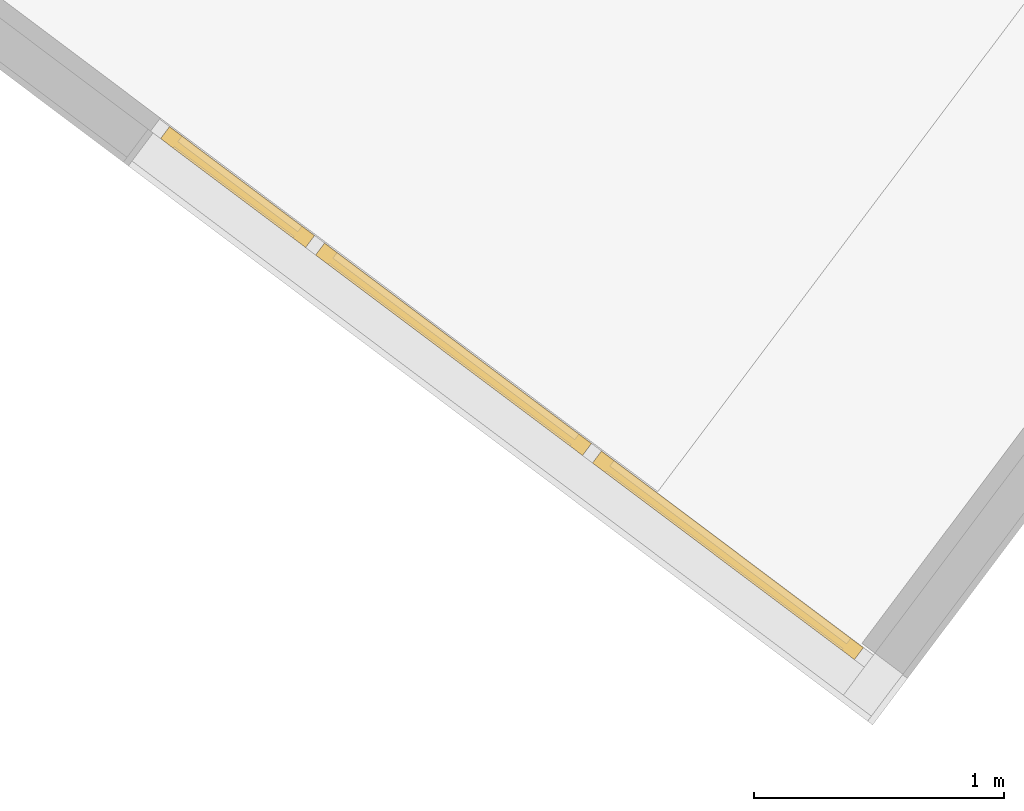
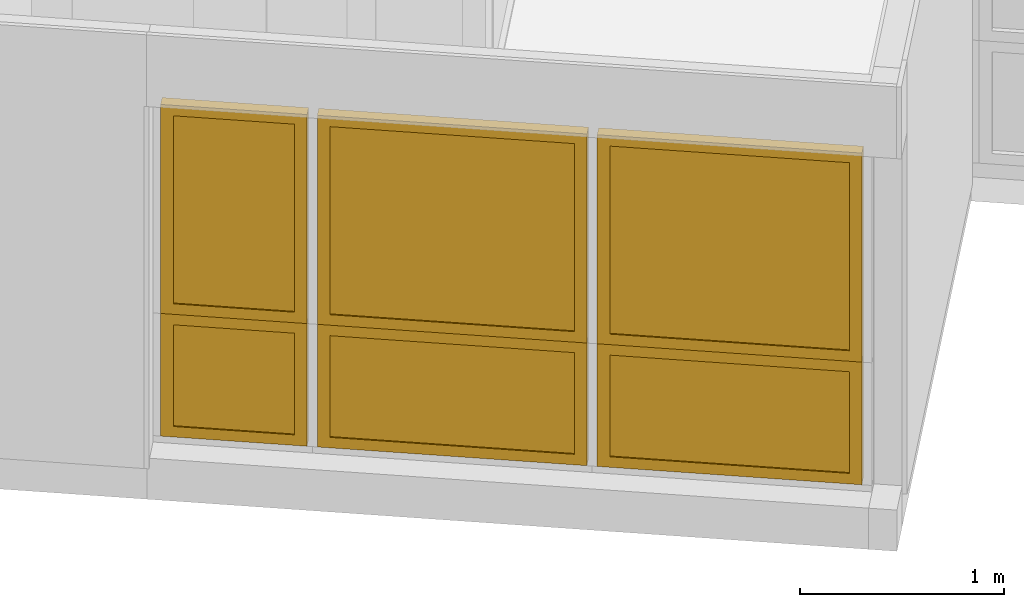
# One storey, part 221 of 243: 6 windows, 1 element without a shape of its own.
"""IFC2X3 building model written with IfcOpenShell, lengths in metres."""

from ifc_helpers import new_model, entity, si_unit, converted_unit, derived_unit, direction, frame, origin, place, context, subcontext, project, spatial, faceted_brep, source, transform, mapped, material, material_list, type_object, type_shapes, element, aggregate, save


model = new_model("IFC2X3")

# Units and contexts
model_context = context("Model", 3, precision=1e-05, world=origin(), true_north=direction((6.123031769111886e-17, 1.0)))
body_context = subcontext(model_context, "Body", "Model", "MODEL_VIEW")
ifc_project = project(units=[si_unit("LENGTHUNIT", "METRE"), si_unit("AREAUNIT", "SQUARE_METRE"), si_unit("VOLUMEUNIT", "CUBIC_METRE"), converted_unit("PLANEANGLEUNIT", "DEGREE", entity("IfcRatioMeasure", 0.017453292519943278), si_unit("PLANEANGLEUNIT", "RADIAN"), dimensions=[0, 0, 0, 0, 0, 0, 0]), si_unit("MASSUNIT", "GRAM", prefix="KILO"), derived_unit("MASSDENSITYUNIT", [(si_unit("MASSUNIT", "GRAM", prefix="KILO"), 1), (si_unit("LENGTHUNIT", "METRE"), -3)]), derived_unit("IONCONCENTRATIONUNIT", [(si_unit("MASSUNIT", "GRAM", prefix="KILO"), 1), (si_unit("LENGTHUNIT", "METRE"), -3)]), derived_unit("MOMENTOFINERTIAUNIT", [(si_unit("LENGTHUNIT", "METRE"), 4)]), si_unit("TIMEUNIT", "SECOND"), si_unit("FREQUENCYUNIT", "HERTZ"), si_unit("THERMODYNAMICTEMPERATUREUNIT", "DEGREE_CELSIUS"), derived_unit("THERMALTRANSMITTANCEUNIT", [(si_unit("MASSUNIT", "GRAM", prefix="KILO"), 1), (si_unit("THERMODYNAMICTEMPERATUREUNIT", "KELVIN"), -1), (si_unit("TIMEUNIT", "SECOND"), -3)]), derived_unit("THERMALCONDUCTANCEUNIT", [(si_unit("MASSUNIT", "GRAM", prefix="KILO"), 1), (si_unit("THERMODYNAMICTEMPERATUREUNIT", "KELVIN"), -1), (si_unit("TIMEUNIT", "SECOND"), -3), (si_unit("LENGTHUNIT", "METRE"), 1)]), derived_unit("VOLUMETRICFLOWRATEUNIT", [(si_unit("LENGTHUNIT", "METRE"), 3), (si_unit("TIMEUNIT", "SECOND"), -1)]), derived_unit("MASSFLOWRATEUNIT", [(si_unit("MASSUNIT", "GRAM", prefix="KILO"), 1), (si_unit("TIMEUNIT", "SECOND"), -1)]), derived_unit("ROTATIONALFREQUENCYUNIT", [(si_unit("TIMEUNIT", "SECOND"), -1)]), si_unit("ELECTRICCURRENTUNIT", "AMPERE"), si_unit("ELECTRICVOLTAGEUNIT", "VOLT"), si_unit("POWERUNIT", "WATT"), si_unit("FORCEUNIT", "NEWTON", prefix="KILO"), si_unit("ILLUMINANCEUNIT", "LUX"), si_unit("LUMINOUSFLUXUNIT", "LUMEN"), si_unit("LUMINOUSINTENSITYUNIT", "CANDELA"), derived_unit("USERDEFINED", [(si_unit("MASSUNIT", "GRAM", prefix="KILO"), -1), (si_unit("LENGTHUNIT", "METRE"), -2), (si_unit("TIMEUNIT", "SECOND"), 3), (si_unit("LUMINOUSFLUXUNIT", "LUMEN"), 1)]), derived_unit("USERDEFINED", [(si_unit("MASSUNIT", "GRAM", prefix="KILO"), 1), (si_unit("TIMEUNIT", "SECOND"), -3), (si_unit("LENGTHUNIT", "METRE"), 3), (si_unit("ELECTRICCURRENTUNIT", "AMPERE"), -2)]), derived_unit("SOUNDPOWERUNIT", [(si_unit("MASSUNIT", "GRAM", prefix="KILO"), 1), (si_unit("TIMEUNIT", "SECOND"), -3), (si_unit("LENGTHUNIT", "METRE"), 2)]), derived_unit("SOUNDPRESSUREUNIT", [(si_unit("MASSUNIT", "GRAM", prefix="KILO"), 1), (si_unit("LENGTHUNIT", "METRE"), -1), (si_unit("TIMEUNIT", "SECOND"), -2)]), derived_unit("LINEARVELOCITYUNIT", [(si_unit("LENGTHUNIT", "METRE"), 1), (si_unit("TIMEUNIT", "SECOND"), -1)]), si_unit("PRESSUREUNIT", "PASCAL"), derived_unit("USERDEFINED", [(si_unit("MASSUNIT", "GRAM", prefix="KILO"), 1), (si_unit("LENGTHUNIT", "METRE"), -2), (si_unit("TIMEUNIT", "SECOND"), -2)]), derived_unit("LINEARFORCEUNIT", [(si_unit("MASSUNIT", "GRAM", prefix="KILO"), 1), (si_unit("TIMEUNIT", "SECOND"), -2)]), derived_unit("PLANARFORCEUNIT", [(si_unit("MASSUNIT", "GRAM", prefix="KILO"), 1), (si_unit("LENGTHUNIT", "METRE"), -1), (si_unit("TIMEUNIT", "SECOND"), -2)]), derived_unit("SPECIFICHEATCAPACITYUNIT", [(si_unit("THERMODYNAMICTEMPERATUREUNIT", "KELVIN"), -1), (si_unit("LENGTHUNIT", "METRE"), 2), (si_unit("TIMEUNIT", "SECOND"), -2)]), derived_unit("HEATINGVALUEUNIT", [(si_unit("LENGTHUNIT", "METRE"), 2), (si_unit("TIMEUNIT", "SECOND"), -2)]), derived_unit("VAPORPERMEABILITYUNIT", [(si_unit("LENGTHUNIT", "METRE"), -1), (si_unit("TIMEUNIT", "SECOND"), 1)]), derived_unit("DYNAMICVISCOSITYUNIT", [(si_unit("MASSUNIT", "GRAM", prefix="KILO"), 1), (si_unit("TIMEUNIT", "SECOND"), -1), (si_unit("LENGTHUNIT", "METRE"), -1)]), derived_unit("THERMALEXPANSIONCOEFFICIENTUNIT", [(si_unit("THERMODYNAMICTEMPERATUREUNIT", "KELVIN"), -1)]), derived_unit("MODULUSOFELASTICITYUNIT", [(si_unit("MASSUNIT", "GRAM", prefix="KILO"), 1), (si_unit("LENGTHUNIT", "METRE"), -1), (si_unit("TIMEUNIT", "SECOND"), -2)]), derived_unit("ISOTHERMALMOISTURECAPACITYUNIT", [(si_unit("LENGTHUNIT", "METRE"), 3), (si_unit("MASSUNIT", "GRAM", prefix="KILO"), -1)]), derived_unit("MOISTUREDIFFUSIVITYUNIT", [(si_unit("TIMEUNIT", "SECOND"), -1), (si_unit("LENGTHUNIT", "METRE"), 2)])], contexts=[model_context])

# Site, building, storey
site_placement = place(None, frame((0.0, 0.0, 235.0), z_axis=(0.0, 0.0, 1.0), x_axis=(-0.7996477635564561, 0.6004693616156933, 0.0)))
site = spatial("IfcSite", under=ifc_project, at=site_placement, Name="Default", CompositionType="ELEMENT")
building_placement = place(site_placement, origin())
building = spatial("IfcBuilding", under=site, at=building_placement, CompositionType="ELEMENT")
storey_placement = place(building_placement, origin())
storey = spatial("IfcBuildingStorey", under=building, at=storey_placement, Name="P0- Escola", CompositionType="ELEMENT", Elevation=0.0)

# Curtain wall, windows
curtain_wall_type = type_object("IfcCurtainWallType", Name="Muro cortina:MC- EXT- AL3", PredefinedType="NOTDEFINED")
curtain_wall_placement = place(storey_placement, origin())
curtain_wall = element("IfcCurtainWall", 1, at=curtain_wall_placement, inside=storey, type_object=curtain_wall_type, Name="Muro cortina:MC- EXT- AL3", ObjectType="Muro cortina:MC- EXT- AL3")
ifc_material_1 = material(Name="_Vidre")
ifc_material_2 = material(Name="_Alumini- T1- Perfil")
ifc_material_list = material_list([ifc_material_1, ifc_material_2])
window_style_1 = type_object("IfcWindowStyle", Name="MC- Alu- Conjunt vidre fix- 62x60 cm:MC- Alu- Conjunt vidre fix- 62x60 cm", ConstructionType="NOTDEFINED", OperationType="NOTDEFINED", ParameterTakesPrecedence=False, Sizeable=False, material=ifc_material_list)
shared_shape_1 = source(origin(), body_context, "Body", "Brep", [
    faceted_brep([(-0.6056932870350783, -0.007600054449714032, 0.048806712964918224), (0.6056932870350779, -0.007600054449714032, 0.048806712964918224), (0.6056932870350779, -0.03160022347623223, 0.048806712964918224), (-0.6056932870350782, -0.03160022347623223, 0.048806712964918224), (-0.6056932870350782, -0.007600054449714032, 0.685999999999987), (0.6056932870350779, -0.007600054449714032, 0.685999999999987), (0.6056932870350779, -0.03160022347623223, 0.685999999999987), (-0.6056932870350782, -0.03160022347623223, 0.685999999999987)], [[[0, 1, 2, 3]], [[4, 5, 1, 0]], [[5, 6, 2, 1]], [[6, 7, 3, 2]], [[7, 4, 0, 3]], [[4, 7, 6, 5]]]),
    faceted_brep([(-0.6544999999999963, -0.05999999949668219, 0.734999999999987), (-0.6544999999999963, 0.0, 0.734999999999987), (-0.6544999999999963, 0.0, 0.0), (-0.6544999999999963, -0.05999999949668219, 0.0), (-0.5916931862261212, 0.0, 0.6721931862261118), (-0.5916931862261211, 0.0, 0.06280681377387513), (0.5916931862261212, 0.0, 0.06280681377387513), (0.5916931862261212, 0.0, 0.6721931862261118), (0.6544999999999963, 0.0, 0.734999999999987), (0.6544999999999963, 0.0, 0.0), (0.6544999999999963, -0.05999999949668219, 0.0), (0.6544999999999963, -0.05999999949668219, 0.734999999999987), (0.5916960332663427, -0.05999999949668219, 0.6721960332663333), (0.5916960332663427, -0.05999999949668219, 0.06280396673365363), (-0.5916960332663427, -0.05999999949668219, 0.0628039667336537), (-0.5916960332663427, -0.05999999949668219, 0.6721960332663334), (-0.5916960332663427, -0.03160022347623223, 0.6721960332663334), (-0.5916960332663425, -0.03160022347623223, 0.06280396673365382), (0.5916960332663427, -0.03160022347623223, 0.06280396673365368), (0.5916960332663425, -0.03160022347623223, 0.6721960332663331), (0.6056932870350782, -0.03160022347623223, 0.6861932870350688), (0.6056932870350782, -0.03160022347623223, 0.048806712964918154), (-0.6056932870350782, -0.03160022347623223, 0.04880671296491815), (-0.6056932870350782, -0.03160022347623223, 0.6861932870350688), (-0.6056932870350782, -0.007600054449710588, 0.6861932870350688), (-0.6056932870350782, -0.007600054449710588, 0.04880671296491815), (0.6056932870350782, -0.007600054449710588, 0.048806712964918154), (0.6056932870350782, -0.007600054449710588, 0.6861932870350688), (0.5916931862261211, -0.007600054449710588, 0.6721931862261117), (0.5916931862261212, -0.007600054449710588, 0.06280681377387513), (-0.5916931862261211, -0.007600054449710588, 0.06280681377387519), (-0.5916931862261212, -0.007600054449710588, 0.6721931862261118)], [[[0, 1, 2, 3]], [[4, 5, 6, 7], [8, 9, 2, 1]], [[3, 2, 9, 10]], [[0, 3, 10, 11], [12, 13, 14, 15]], [[16, 15, 14, 17]], [[17, 14, 13, 18]], [[16, 17, 18, 19], [20, 21, 22, 23]], [[24, 23, 22, 25]], [[25, 22, 21, 26]], [[24, 25, 26, 27], [28, 29, 30, 31]], [[4, 31, 30, 5]], [[5, 30, 29, 6]], [[10, 9, 8, 11]], [[18, 13, 12, 19]], [[26, 21, 20, 27]], [[6, 29, 28, 7]], [[11, 8, 1, 0]], [[19, 12, 15, 16]], [[27, 20, 23, 24]], [[7, 28, 31, 4]]], outer=[[True], [False, True], [True], [True, False], [True], [True], [False, True], [True], [True], [True, False], [True], [True], [True], [True], [True], [True], [True], [True], [True], [True]]),
])
type_shapes(window_style_1, [shared_shape_1])
window_1_placement = place(curtain_wall_placement, frame((14.089647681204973, -15.460191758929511, 0.085)))
window_1 = element("IfcWindow", 2, at=window_1_placement, type_object=window_style_1, material=ifc_material_list, Name="MC- Alu- Conjunt vidre fix- 62x60 cm:MC- Alu- Conjunt vidre fix- 62x60 cm", ObjectType="MC- Alu- Conjunt vidre fix- 62x60 cm:MC- Alu- Conjunt vidre fix- 62x60 cm", OverallHeight=0.734999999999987, OverallWidth=1.3089999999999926, context=body_context, shape_type="MappedRepresentation", body=[
    mapped(shared_shape_1, transform((0.0, 0.0, 0.0), scale=1.0)),
])
window_style_2 = type_object("IfcWindowStyle", Name="MC- Alu- Conjunt vidre fix- 62x60 cm:MC- Alu- Conjunt vidre fix- 62x60 cm", ConstructionType="NOTDEFINED", OperationType="NOTDEFINED", ParameterTakesPrecedence=False, Sizeable=False, material=ifc_material_list)
shared_shape_2 = source(origin(), body_context, "Body", "Brep", [
    faceted_brep([(-0.6181932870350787, -0.007600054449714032, 0.048806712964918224), (0.6181932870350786, -0.007600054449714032, 0.048806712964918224), (0.6181932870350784, -0.03160022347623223, 0.048806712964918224), (-0.6181932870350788, -0.03160022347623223, 0.048806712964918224), (-0.6181932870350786, -0.007600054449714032, 0.685999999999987), (0.6181932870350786, -0.007600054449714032, 0.685999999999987), (0.6181932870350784, -0.03160022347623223, 0.685999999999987), (-0.6181932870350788, -0.03160022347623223, 0.685999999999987)], [[[0, 1, 2, 3]], [[4, 5, 1, 0]], [[5, 6, 2, 1]], [[6, 7, 3, 2]], [[7, 4, 0, 3]], [[4, 7, 6, 5]]]),
    faceted_brep([(-0.6669999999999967, -0.05999999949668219, 0.734999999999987), (-0.6669999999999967, 0.0, 0.734999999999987), (-0.6669999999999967, 0.0, 0.0), (-0.6669999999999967, -0.05999999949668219, 0.0), (-0.6041931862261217, 0.0, 0.6721931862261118), (-0.6041931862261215, 0.0, 0.06280681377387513), (0.6041931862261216, 0.0, 0.06280681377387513), (0.6041931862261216, 0.0, 0.6721931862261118), (0.6669999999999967, 0.0, 0.734999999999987), (0.6669999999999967, 0.0, 0.0), (0.6669999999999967, -0.05999999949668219, 0.0), (0.6669999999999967, -0.05999999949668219, 0.734999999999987), (0.6041960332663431, -0.05999999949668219, 0.6721960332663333), (0.6041960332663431, -0.05999999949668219, 0.06280396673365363), (-0.6041960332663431, -0.05999999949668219, 0.0628039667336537), (-0.6041960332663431, -0.05999999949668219, 0.6721960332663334), (-0.6041960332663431, -0.03160022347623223, 0.6721960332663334), (-0.6041960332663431, -0.03160022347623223, 0.0628039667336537), (0.6041960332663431, -0.03160022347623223, 0.06280396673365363), (0.6041960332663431, -0.03160022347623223, 0.6721960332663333), (0.6181932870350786, -0.03160022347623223, 0.6861932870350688), (0.6181932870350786, -0.03160022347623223, 0.048806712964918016), (-0.6181932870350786, -0.03160022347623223, 0.04880671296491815), (-0.6181932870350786, -0.03160022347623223, 0.686193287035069), (-0.6181932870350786, -0.007600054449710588, 0.686193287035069), (-0.6181932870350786, -0.007600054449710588, 0.04880671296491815), (0.6181932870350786, -0.007600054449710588, 0.04880671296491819), (0.6181932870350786, -0.007600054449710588, 0.6861932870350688), (0.6041931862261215, -0.007600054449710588, 0.6721931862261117), (0.6041931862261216, -0.007600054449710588, 0.06280681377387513), (-0.6041931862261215, -0.007600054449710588, 0.06280681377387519), (-0.6041931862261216, -0.007600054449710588, 0.6721931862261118)], [[[0, 1, 2, 3]], [[4, 5, 6, 7], [8, 9, 2, 1]], [[3, 2, 9, 10]], [[0, 3, 10, 11], [12, 13, 14, 15]], [[16, 15, 14, 17]], [[17, 14, 13, 18]], [[16, 17, 18, 19], [20, 21, 22, 23]], [[24, 23, 22, 25]], [[25, 22, 21, 26]], [[24, 25, 26, 27], [28, 29, 30, 31]], [[4, 31, 30, 5]], [[5, 30, 29, 6]], [[10, 9, 8, 11]], [[18, 13, 12, 19]], [[26, 21, 20, 27]], [[6, 29, 28, 7]], [[11, 8, 1, 0]], [[19, 12, 15, 16]], [[27, 20, 23, 24]], [[7, 28, 31, 4]]], outer=[[True], [False, True], [True], [True, False], [True], [True], [False, True], [True], [True], [True, False], [True], [True], [True], [True], [True], [True], [True], [True], [True], [True]]),
])
type_shapes(window_style_2, [shared_shape_2])
window_2_placement = place(curtain_wall_placement, frame((15.461147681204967, -15.460191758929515, 0.085)))
window_2 = element("IfcWindow", 3, at=window_2_placement, type_object=window_style_2, material=ifc_material_list, Name="MC- Alu- Conjunt vidre fix- 62x60 cm:MC- Alu- Conjunt vidre fix- 62x60 cm", ObjectType="MC- Alu- Conjunt vidre fix- 62x60 cm:MC- Alu- Conjunt vidre fix- 62x60 cm", OverallHeight=0.734999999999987, OverallWidth=1.3339999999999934, context=body_context, shape_type="MappedRepresentation", body=[
    mapped(shared_shape_2, transform((0.0, 0.0, 0.0), scale=1.0)),
])
window_style_3 = type_object("IfcWindowStyle", Name="MC- Alu- Conjunt vidre fix- 62x60 cm:MC- Alu- Conjunt vidre fix- 62x60 cm", ConstructionType="NOTDEFINED", OperationType="NOTDEFINED", ParameterTakesPrecedence=False, Sizeable=False, material=ifc_material_list)
shared_shape_3 = source(origin(), body_context, "Body", "Brep", [
    faceted_brep([(-0.3136932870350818, -0.007600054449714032, 0.048806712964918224), (0.31369328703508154, -0.007600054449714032, 0.048806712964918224), (0.31369328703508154, -0.03160022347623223, 0.048806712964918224), (-0.3136932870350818, -0.03160022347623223, 0.048806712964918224), (-0.3136932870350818, -0.007600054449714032, 0.6859999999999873), (0.31369328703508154, -0.007600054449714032, 0.6859999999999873), (0.31369328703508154, -0.03160022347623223, 0.6859999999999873), (-0.3136932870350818, -0.03160022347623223, 0.6859999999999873)], [[[0, 1, 2, 3]], [[4, 5, 1, 0]], [[5, 6, 2, 1]], [[6, 7, 3, 2]], [[7, 4, 0, 3]], [[4, 7, 6, 5]]]),
    faceted_brep([(-0.3624999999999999, -0.05999999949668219, 0.7349999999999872), (-0.3624999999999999, 0.0, 0.7349999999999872), (-0.3624999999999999, 0.0, 0.0), (-0.3624999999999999, -0.05999999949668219, 0.0), (-0.2996931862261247, 0.0, 0.6721931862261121), (-0.2996931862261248, 0.0, 0.06280681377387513), (0.2996931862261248, 0.0, 0.06280681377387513), (0.2996931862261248, 0.0, 0.6721931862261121), (0.3624999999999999, 0.0, 0.7349999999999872), (0.3624999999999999, 0.0, 0.0), (0.3624999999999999, -0.05999999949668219, 0.0), (0.3624999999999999, -0.05999999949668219, 0.7349999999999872), (0.2996960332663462, -0.05999999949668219, 0.6721960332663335), (0.2996960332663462, -0.05999999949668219, 0.0628039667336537), (-0.2996960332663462, -0.05999999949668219, 0.0628039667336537), (-0.2996960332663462, -0.05999999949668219, 0.6721960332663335), (-0.2996960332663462, -0.03160022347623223, 0.6721960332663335), (-0.29969603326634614, -0.03160022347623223, 0.06280396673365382), (0.29969603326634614, -0.03160022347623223, 0.0628039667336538), (0.2996960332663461, -0.03160022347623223, 0.6721960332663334), (0.31369328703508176, -0.03160022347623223, 0.6861932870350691), (0.31369328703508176, -0.03160022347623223, 0.048806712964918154), (-0.31369328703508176, -0.03160022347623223, 0.04880671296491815), (-0.31369328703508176, -0.03160022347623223, 0.6861932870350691), (-0.31369328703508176, -0.007600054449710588, 0.6861932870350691), (-0.31369328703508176, -0.007600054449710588, 0.04880671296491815), (0.31369328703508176, -0.007600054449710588, 0.048806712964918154), (0.31369328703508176, -0.007600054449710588, 0.6861932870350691), (0.2996931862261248, -0.007600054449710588, 0.6721931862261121), (0.2996931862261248, -0.007600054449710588, 0.06280681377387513), (-0.2996931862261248, -0.007600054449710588, 0.06280681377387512), (-0.2996931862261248, -0.007600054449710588, 0.6721931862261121)], [[[0, 1, 2, 3]], [[4, 5, 6, 7], [8, 9, 2, 1]], [[3, 2, 9, 10]], [[0, 3, 10, 11], [12, 13, 14, 15]], [[16, 15, 14, 17]], [[17, 14, 13, 18]], [[16, 17, 18, 19], [20, 21, 22, 23]], [[24, 23, 22, 25]], [[25, 22, 21, 26]], [[24, 25, 26, 27], [28, 29, 30, 31]], [[4, 31, 30, 5]], [[5, 30, 29, 6]], [[10, 9, 8, 11]], [[18, 13, 12, 19]], [[26, 21, 20, 27]], [[6, 29, 28, 7]], [[11, 8, 1, 0]], [[19, 12, 15, 16]], [[27, 20, 23, 24]], [[7, 28, 31, 4]]], outer=[[True], [False, True], [True], [True, False], [True], [True], [False, True], [True], [True], [True, False], [True], [True], [True], [True], [True], [True], [True], [True], [True], [True]]),
])
type_shapes(window_style_3, [shared_shape_3])
window_3_placement = place(curtain_wall_placement, frame((16.540647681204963, -15.46019175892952, 0.085)))
window_3 = element("IfcWindow", 4, at=window_3_placement, type_object=window_style_3, material=ifc_material_list, Name="MC- Alu- Conjunt vidre fix- 62x60 cm:MC- Alu- Conjunt vidre fix- 62x60 cm", ObjectType="MC- Alu- Conjunt vidre fix- 62x60 cm:MC- Alu- Conjunt vidre fix- 62x60 cm", OverallHeight=0.7349999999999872, OverallWidth=0.7249999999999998, context=body_context, shape_type="MappedRepresentation", body=[
    mapped(shared_shape_3, transform((0.0, 0.0, 0.0), scale=1.0)),
])
window_style_4 = type_object("IfcWindowStyle", Name="MC- Alu- Conjunt vidre fix- 62x60 cm:MC- Alu- Conjunt vidre fix- 62x60 cm", ConstructionType="NOTDEFINED", OperationType="NOTDEFINED", ParameterTakesPrecedence=False, Sizeable=False, material=ifc_material_list)
shared_shape_4 = source(origin(), body_context, "Body", "Brep", [
    faceted_brep([(-0.6056932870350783, -0.007600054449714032, 0.048806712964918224), (0.6056932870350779, -0.007600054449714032, 0.048806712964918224), (0.6056932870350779, -0.03160022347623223, 0.048806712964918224), (-0.6056932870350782, -0.03160022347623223, 0.048806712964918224), (-0.6056932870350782, -0.007600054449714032, 1.2035000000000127), (0.6056932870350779, -0.007600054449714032, 1.2035000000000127), (0.6056932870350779, -0.03160022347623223, 1.2035000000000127), (-0.6056932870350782, -0.03160022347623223, 1.2035000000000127)], [[[0, 1, 2, 3]], [[4, 5, 1, 0]], [[5, 6, 2, 1]], [[6, 7, 3, 2]], [[7, 4, 0, 3]], [[4, 7, 6, 5]]]),
    faceted_brep([(-0.6544999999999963, -0.05999999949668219, 1.2525000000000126), (-0.6544999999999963, 0.0, 1.2525000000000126), (-0.6544999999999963, 0.0, 0.0), (-0.6544999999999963, -0.05999999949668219, 0.0), (-0.5916931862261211, 0.0, 1.1896931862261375), (-0.5916931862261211, 0.0, 0.06280681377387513), (0.5916931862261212, 0.0, 0.06280681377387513), (0.5916931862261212, 0.0, 1.1896931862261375), (0.6544999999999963, 0.0, 1.2525000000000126), (0.6544999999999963, 0.0, 0.0), (0.6544999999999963, -0.05999999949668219, 0.0), (0.6544999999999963, -0.05999999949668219, 1.2525000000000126), (0.5916960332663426, -0.05999999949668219, 1.1896960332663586), (0.5916960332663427, -0.05999999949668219, 0.06280396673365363), (-0.5916960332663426, -0.05999999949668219, 0.06280396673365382), (-0.5916960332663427, -0.05999999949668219, 1.1896960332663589), (-0.5916960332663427, -0.03160022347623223, 1.1896960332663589), (-0.5916960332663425, -0.03160022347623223, 0.06280396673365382), (0.5916960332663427, -0.03160022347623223, 0.06280396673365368), (0.5916960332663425, -0.03160022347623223, 1.1896960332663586), (0.6056932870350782, -0.03160022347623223, 1.2036932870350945), (0.6056932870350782, -0.03160022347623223, 0.048806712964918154), (-0.6056932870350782, -0.03160022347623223, 0.04880671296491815), (-0.6056932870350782, -0.03160022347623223, 1.2036932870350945), (-0.6056932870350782, -0.007600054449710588, 1.2036932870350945), (-0.6056932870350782, -0.007600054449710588, 0.04880671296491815), (0.6056932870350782, -0.007600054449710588, 0.048806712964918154), (0.6056932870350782, -0.007600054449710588, 1.2036932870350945), (0.5916931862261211, -0.007600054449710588, 1.1896931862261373), (0.5916931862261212, -0.007600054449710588, 0.06280681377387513), (-0.5916931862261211, -0.007600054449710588, 0.06280681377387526), (-0.5916931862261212, -0.007600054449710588, 1.1896931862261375)], [[[0, 1, 2, 3]], [[4, 5, 6, 7], [8, 9, 2, 1]], [[3, 2, 9, 10]], [[0, 3, 10, 11], [12, 13, 14, 15]], [[16, 15, 14, 17]], [[17, 14, 13, 18]], [[16, 17, 18, 19], [20, 21, 22, 23]], [[24, 23, 22, 25]], [[25, 22, 21, 26]], [[24, 25, 26, 27], [28, 29, 30, 31]], [[4, 31, 30, 5]], [[5, 30, 29, 6]], [[10, 9, 8, 11]], [[18, 13, 12, 19]], [[26, 21, 20, 27]], [[6, 29, 28, 7]], [[11, 8, 1, 0]], [[19, 12, 15, 16]], [[27, 20, 23, 24]], [[7, 28, 31, 4]]], outer=[[True], [False, True], [True], [True, False], [True], [True], [False, True], [True], [True], [True, False], [True], [True], [True], [True], [True], [True], [True], [True], [True], [True]]),
])
type_shapes(window_style_4, [shared_shape_4])
window_4_placement = place(curtain_wall_placement, frame((14.089647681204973, -15.460191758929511, 0.8199999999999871)))
window_4 = element("IfcWindow", 5, at=window_4_placement, type_object=window_style_4, material=ifc_material_list, Name="MC- Alu- Conjunt vidre fix- 62x60 cm:MC- Alu- Conjunt vidre fix- 62x60 cm", ObjectType="MC- Alu- Conjunt vidre fix- 62x60 cm:MC- Alu- Conjunt vidre fix- 62x60 cm", OverallHeight=1.2525000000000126, OverallWidth=1.3089999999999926, context=body_context, shape_type="MappedRepresentation", body=[
    mapped(shared_shape_4, transform((0.0, 0.0, 0.0), scale=1.0)),
])
window_style_5 = type_object("IfcWindowStyle", Name="MC- Alu- Conjunt vidre fix- 62x60 cm:MC- Alu- Conjunt vidre fix- 62x60 cm", ConstructionType="NOTDEFINED", OperationType="NOTDEFINED", ParameterTakesPrecedence=False, Sizeable=False, material=ifc_material_list)
shared_shape_5 = source(origin(), body_context, "Body", "Brep", [
    faceted_brep([(-0.6181932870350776, -0.007600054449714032, 0.048806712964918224), (0.6181932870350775, -0.007600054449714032, 0.048806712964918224), (0.6181932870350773, -0.03160022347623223, 0.048806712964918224), (-0.6181932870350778, -0.03160022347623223, 0.048806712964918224), (-0.6181932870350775, -0.007600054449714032, 1.2035000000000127), (0.6181932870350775, -0.007600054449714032, 1.2035000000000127), (0.6181932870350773, -0.03160022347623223, 1.2035000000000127), (-0.6181932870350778, -0.03160022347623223, 1.2035000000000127)], [[[0, 1, 2, 3]], [[4, 5, 1, 0]], [[5, 6, 2, 1]], [[6, 7, 3, 2]], [[7, 4, 0, 3]], [[4, 7, 6, 5]]]),
    faceted_brep([(-0.6669999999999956, -0.05999999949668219, 1.2525000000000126), (-0.6669999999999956, 0.0, 1.2525000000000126), (-0.6669999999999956, 0.0, 0.0), (-0.6669999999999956, -0.05999999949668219, 0.0), (-0.6041931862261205, 0.0, 1.1896931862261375), (-0.6041931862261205, 0.0, 0.06280681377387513), (0.6041931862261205, 0.0, 0.06280681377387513), (0.6041931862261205, 0.0, 1.1896931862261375), (0.6669999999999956, 0.0, 1.2525000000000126), (0.6669999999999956, 0.0, 0.0), (0.6669999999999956, -0.05999999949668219, 0.0), (0.6669999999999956, -0.05999999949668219, 1.2525000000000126), (0.6041960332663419, -0.05999999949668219, 1.1896960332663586), (0.604196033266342, -0.05999999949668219, 0.06280396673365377), (-0.6041960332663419, -0.05999999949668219, 0.06280396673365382), (-0.604196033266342, -0.05999999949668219, 1.1896960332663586), (-0.604196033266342, -0.03160022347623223, 1.1896960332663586), (-0.604196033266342, -0.03160022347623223, 0.06280396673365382), (0.604196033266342, -0.03160022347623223, 0.06280396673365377), (0.604196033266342, -0.03160022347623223, 1.1896960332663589), (0.6181932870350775, -0.03160022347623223, 1.2036932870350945), (0.6181932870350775, -0.03160022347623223, 0.048806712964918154), (-0.6181932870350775, -0.03160022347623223, 0.04880671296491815), (-0.6181932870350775, -0.03160022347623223, 1.2036932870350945), (-0.6181932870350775, -0.007600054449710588, 1.2036932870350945), (-0.6181932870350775, -0.007600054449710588, 0.04880671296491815), (0.6181932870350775, -0.007600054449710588, 0.04880671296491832), (0.6181932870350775, -0.007600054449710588, 1.2036932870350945), (0.6041931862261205, -0.007600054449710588, 1.1896931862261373), (0.6041931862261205, -0.007600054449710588, 0.06280681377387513), (-0.6041931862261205, -0.007600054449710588, 0.06280681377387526), (-0.6041931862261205, -0.007600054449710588, 1.1896931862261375)], [[[0, 1, 2, 3]], [[4, 5, 6, 7], [8, 9, 2, 1]], [[3, 2, 9, 10]], [[0, 3, 10, 11], [12, 13, 14, 15]], [[16, 15, 14, 17]], [[17, 14, 13, 18]], [[16, 17, 18, 19], [20, 21, 22, 23]], [[24, 23, 22, 25]], [[25, 22, 21, 26]], [[24, 25, 26, 27], [28, 29, 30, 31]], [[4, 31, 30, 5]], [[5, 30, 29, 6]], [[10, 9, 8, 11]], [[18, 13, 12, 19]], [[26, 21, 20, 27]], [[6, 29, 28, 7]], [[11, 8, 1, 0]], [[19, 12, 15, 16]], [[27, 20, 23, 24]], [[7, 28, 31, 4]]], outer=[[True], [False, True], [True], [True, False], [True], [True], [False, True], [True], [True], [True, False], [True], [True], [True], [True], [True], [True], [True], [True], [True], [True]]),
])
type_shapes(window_style_5, [shared_shape_5])
window_5_placement = place(curtain_wall_placement, frame((15.461147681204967, -15.460191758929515, 0.8199999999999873)))
window_5 = element("IfcWindow", 6, at=window_5_placement, type_object=window_style_5, material=ifc_material_list, Name="MC- Alu- Conjunt vidre fix- 62x60 cm:MC- Alu- Conjunt vidre fix- 62x60 cm", ObjectType="MC- Alu- Conjunt vidre fix- 62x60 cm:MC- Alu- Conjunt vidre fix- 62x60 cm", OverallHeight=1.2525000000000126, OverallWidth=1.3339999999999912, context=body_context, shape_type="MappedRepresentation", body=[
    mapped(shared_shape_5, transform((0.0, 0.0, 0.0), scale=1.0)),
])
window_style_6 = type_object("IfcWindowStyle", Name="MC- Alu- Conjunt vidre fix- 62x60 cm:MC- Alu- Conjunt vidre fix- 62x60 cm", ConstructionType="NOTDEFINED", OperationType="NOTDEFINED", ParameterTakesPrecedence=False, Sizeable=False, material=ifc_material_list)
shared_shape_6 = source(origin(), body_context, "Body", "Brep", [
    faceted_brep([(-0.3136932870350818, -0.007600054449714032, 0.048806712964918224), (0.31369328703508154, -0.007600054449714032, 0.048806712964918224), (0.31369328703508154, -0.03160022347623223, 0.048806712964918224), (-0.3136932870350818, -0.03160022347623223, 0.048806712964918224), (-0.3136932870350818, -0.007600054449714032, 1.203500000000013), (0.31369328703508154, -0.007600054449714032, 1.203500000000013), (0.31369328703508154, -0.03160022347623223, 1.203500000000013), (-0.3136932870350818, -0.03160022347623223, 1.203500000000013)], [[[0, 1, 2, 3]], [[4, 5, 1, 0]], [[5, 6, 2, 1]], [[6, 7, 3, 2]], [[7, 4, 0, 3]], [[4, 7, 6, 5]]]),
    faceted_brep([(-0.3624999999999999, -0.05999999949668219, 1.2525000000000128), (-0.3624999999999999, 0.0, 1.2525000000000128), (-0.3624999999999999, 0.0, 0.0), (-0.3624999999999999, -0.05999999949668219, 0.0), (-0.29969318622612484, 0.0, 1.1896931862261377), (-0.2996931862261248, 0.0, 0.06280681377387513), (0.2996931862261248, 0.0, 0.06280681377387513), (0.2996931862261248, 0.0, 1.1896931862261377), (0.3624999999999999, 0.0, 1.2525000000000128), (0.3624999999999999, 0.0, 0.0), (0.3624999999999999, -0.05999999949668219, 0.0), (0.3624999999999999, -0.05999999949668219, 1.2525000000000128), (0.2996960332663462, -0.05999999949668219, 1.189696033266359), (0.2996960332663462, -0.05999999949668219, 0.0628039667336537), (-0.2996960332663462, -0.05999999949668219, 0.0628039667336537), (-0.2996960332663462, -0.05999999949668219, 1.189696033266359), (-0.2996960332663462, -0.03160022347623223, 1.189696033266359), (-0.29969603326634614, -0.03160022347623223, 0.0628039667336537), (0.29969603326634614, -0.03160022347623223, 0.0628039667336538), (0.2996960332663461, -0.03160022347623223, 1.1896960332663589), (0.3136932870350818, -0.03160022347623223, 1.2036932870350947), (0.31369328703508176, -0.03160022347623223, 0.048806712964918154), (-0.3136932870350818, -0.03160022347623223, 0.04880671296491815), (-0.31369328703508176, -0.03160022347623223, 1.2036932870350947), (-0.31369328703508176, -0.007600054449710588, 1.2036932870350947), (-0.31369328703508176, -0.007600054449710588, 0.04880671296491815), (0.31369328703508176, -0.007600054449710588, 0.048806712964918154), (0.31369328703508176, -0.007600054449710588, 1.2036932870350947), (0.2996931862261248, -0.007600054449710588, 1.1896931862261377), (0.2996931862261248, -0.007600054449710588, 0.06280681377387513), (-0.2996931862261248, -0.007600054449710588, 0.06280681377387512), (-0.2996931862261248, -0.007600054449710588, 1.1896931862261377)], [[[0, 1, 2, 3]], [[4, 5, 6, 7], [8, 9, 2, 1]], [[3, 2, 9, 10]], [[0, 3, 10, 11], [12, 13, 14, 15]], [[16, 15, 14, 17]], [[17, 14, 13, 18]], [[16, 17, 18, 19], [20, 21, 22, 23]], [[24, 23, 22, 25]], [[25, 22, 21, 26]], [[24, 25, 26, 27], [28, 29, 30, 31]], [[4, 31, 30, 5]], [[5, 30, 29, 6]], [[10, 9, 8, 11]], [[18, 13, 12, 19]], [[26, 21, 20, 27]], [[6, 29, 28, 7]], [[11, 8, 1, 0]], [[19, 12, 15, 16]], [[27, 20, 23, 24]], [[7, 28, 31, 4]]], outer=[[True], [False, True], [True], [True, False], [True], [True], [False, True], [True], [True], [True, False], [True], [True], [True], [True], [True], [True], [True], [True], [True], [True]]),
])
type_shapes(window_style_6, [shared_shape_6])
window_6_placement = place(curtain_wall_placement, frame((16.540647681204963, -15.46019175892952, 0.8199999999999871)))
window_6 = element("IfcWindow", 7, at=window_6_placement, type_object=window_style_6, material=ifc_material_list, Name="MC- Alu- Conjunt vidre fix- 62x60 cm:MC- Alu- Conjunt vidre fix- 62x60 cm", ObjectType="MC- Alu- Conjunt vidre fix- 62x60 cm:MC- Alu- Conjunt vidre fix- 62x60 cm", OverallHeight=1.2525000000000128, OverallWidth=0.7249999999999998, context=body_context, shape_type="MappedRepresentation", body=[
    mapped(shared_shape_6, transform((0.0, 0.0, 0.0), scale=1.0)),
])
aggregate(curtain_wall, [window_1, window_2, window_3, window_4, window_5, window_6])

save(model, "model.ifc")
